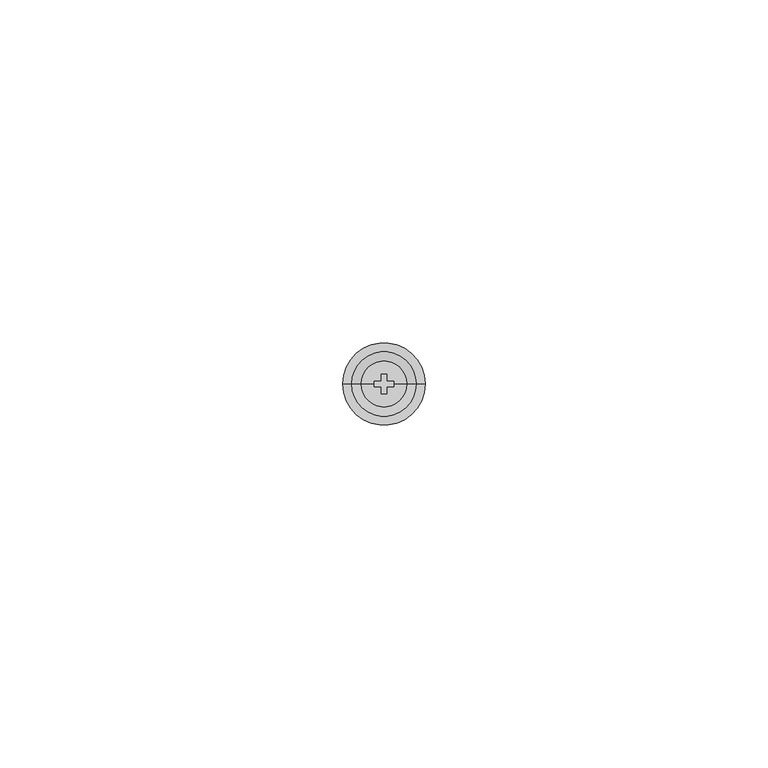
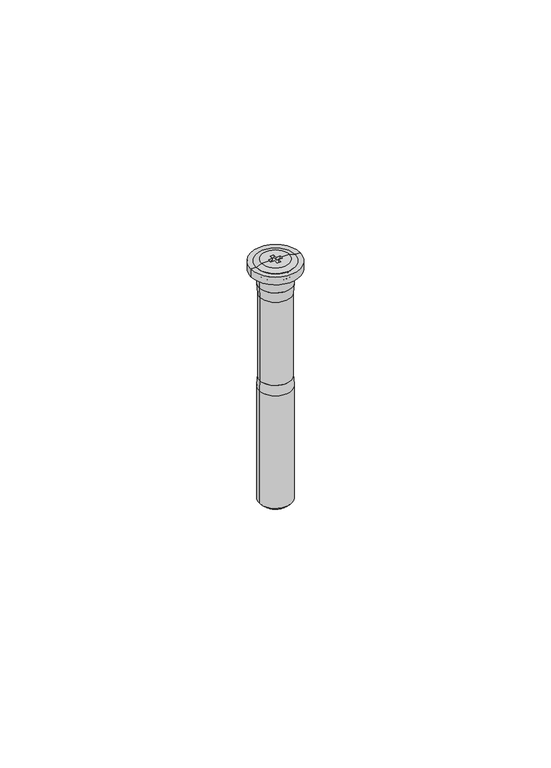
"""IFC4 building model written with IfcOpenShell, lengths in millimetres: proxy geometry, ALT_Дюбель-гвоздь : 8х60."""

from ifc_helpers import new_model, si_unit, point, frame, origin, place, context, project, spatial, polyline, circle_curve, ellipse_curve, trimmed, source, transform, mapped, element, save
from ifc_brep_helpers import plane_surface, cylinder_surface, revolved_surface, advanced_brep


def generic_models_632e174b(model_context):
    return source(origin(), model_context, "Body", "AdvancedBrep", [
        advanced_brep(
        [(0.0, 0.0, -62.0297502), (-3.0, 0.0, -57.8297502), (3.0, 0.0, -57.8297502), (-3.0, 0.0, -0.1007373), (3.0, 0.0, -0.1007373), (3.3365279, 0.0, 2.4902715), (-3.3365279, 0.0, 2.4902715), (-1.5082956, 0.0, 2.4902715), (-1.5082956, 0.5, 2.4902715), (-0.5, 0.5, 2.4902715), (-0.5, 1.5082956, 2.4902715), (0.5, 1.5082956, 2.4902715), (0.5, 0.5, 2.4902715), (1.5082956, 0.5, 2.4902715), (1.5082956, 0.0, 2.4902715), (1.5082956, -0.5, 2.4902715), (0.5, -0.5, 2.4902715), (0.5, -1.5082956, 2.4902715), (-0.5, -1.5082956, 2.4902715), (-0.5, -0.5, 2.4902715), (-1.5082956, -0.5, 2.4902715), (4.7, 0.0, 2.0), (-4.7, 0.0, 2.0), (0.5, 1.5082956, 1.6902715), (-0.5, 1.5082956, 1.6902715), (-0.5, 0.5, 1.6902715), (-1.5082956, 0.5, 1.6902715), (-1.5082956, -0.5, 1.6902715), (-0.5, -0.5, 1.6902715), (-0.5, -1.5082956, 1.6902715), (0.5, -1.5082956, 1.6902715), (0.5, -0.5, 1.6902715), (1.5082956, -0.5, 1.6902715), (1.5082956, 0.5, 1.6902715), (0.5, 0.5, 1.6902715)],
        [
            (0, 1),
            (1, 2, circle_curve(frame((0.0, 0.0, -57.8297502), z_axis=(0.0, 0.0, -1.0), x_axis=(-1.0, 0.0, 0.0)), 3.0)),
            (2, 0),
            (2, 1, circle_curve(frame((0.0, 0.0, -57.8297502), z_axis=(0.0, 0.0, -1.0), x_axis=(-1.0, 0.0, 0.0)), 3.0)),
            (1, 3),
            (3, 4, circle_curve(frame((0.0, 0.0, -0.1007373), z_axis=(0.0, 0.0, -1.0), x_axis=(-1.0, 0.0, 0.0)), 3.0)),
            (4, 2),
            (4, 3, circle_curve(frame((0.0, 0.0, -0.1007373), z_axis=(0.0, 0.0, -1.0), x_axis=(-1.0, 0.0, 0.0)), 3.0)),
            (5, 6, circle_curve(frame((0.0, 0.0, 2.4902715), z_axis=(0.0, 0.0, 1.0), x_axis=(-1.0, 0.0, 0.0)), 3.3365279)),
            (6, 7),
            (7, 8),
            (8, 9),
            (9, 10),
            (10, 11),
            (11, 12),
            (12, 13),
            (13, 14),
            (14, 5),
            (6, 5, circle_curve(frame((0.0, 0.0, 2.4902715), z_axis=(0.0, 0.0, 1.0), x_axis=(-1.0, 0.0, 0.0)), 3.3365279)),
            (14, 15),
            (15, 16),
            (16, 17),
            (17, 18),
            (18, 19),
            (19, 20),
            (20, 7),
            (5, 21),
            (21, 22, circle_curve(frame((0.0, 0.0, 2.0), z_axis=(0.0, 0.0, 1.0), x_axis=(-1.0, 0.0, 0.0)), 4.7)),
            (22, 6),
            (22, 21, circle_curve(frame((0.0, 0.0, 2.0), z_axis=(0.0, 0.0, 1.0), x_axis=(-1.0, 0.0, 0.0)), 4.7)),
            (3, 22),
            (21, 4),
            (23, 24),
            (24, 25),
            (25, 26),
            (26, 27),
            (27, 28),
            (28, 29),
            (29, 30),
            (30, 31),
            (31, 32),
            (32, 33),
            (33, 34),
            (34, 23),
            (23, 11),
            (10, 24),
            (9, 25),
            (8, 26),
            (20, 27),
            (19, 28),
            (18, 29),
            (17, 30),
            (16, 31),
            (15, 32),
            (13, 33),
            (12, 34),
        ],
        [
            revolved_surface(polyline([(-3.0, 0.0, -57.8297502), (0.0, 0.0, -62.0297502)]), (0.0, 0.0, -63.9276901), (0.0, 0.0, -1.0)),
            cylinder_surface(frame((0.0, 0.0, -63.9276901), z_axis=(0.0, 0.0, -1.0), x_axis=(-1.0, 0.0, 0.0)), 3.0),
            plane_surface(frame((0.0, 0.0, 2.4902715), z_axis=(0.0, 0.0, 1.0), x_axis=(-1.0, 0.0, 0.0))),
            revolved_surface(polyline([(-3.3365279, 0.0, 2.4902715), (-4.7, 0.0, 2.0)]), (0.0, 0.0, -63.9276901), (0.0, 0.0, -1.0)),
            revolved_surface(polyline([(-4.7, 0.0, 2.0), (-3.0, 0.0, -0.1007373)]), (0.0, 0.0, -63.9276901), (0.0, 0.0, -1.0)),
            plane_surface(frame((-0.5, 1.5082956, 1.6902715), z_axis=(0.0, 0.0, 1.0), x_axis=(1.0, 0.0, 0.0))),
            plane_surface(frame((0.5, 1.5082956, 2.4902715), z_axis=(0.0, -1.0, 0.0), x_axis=(0.0, 0.0, -1.0))),
            plane_surface(frame((-0.5, 1.5082956, 2.4902715), z_axis=(1.0, 0.0, 0.0), x_axis=(0.0, 0.0, -1.0))),
            plane_surface(frame((-0.5, 0.5, 2.4902715), z_axis=(0.0, -1.0, 0.0), x_axis=(0.0, 0.0, -1.0))),
            plane_surface(frame((-1.5082956, 0.5, 2.4902715), z_axis=(1.0, 0.0, 0.0), x_axis=(0.0, 0.0, -1.0))),
            plane_surface(frame((-1.5082956, -0.5, 2.4902715), z_axis=(0.0, 1.0, 0.0), x_axis=(0.0, 0.0, -1.0))),
            plane_surface(frame((-0.5, -0.5, 2.4902715), z_axis=(1.0, 0.0, 0.0), x_axis=(0.0, 0.0, -1.0))),
            plane_surface(frame((-0.5, -1.5082956, 2.4902715), z_axis=(0.0, 1.0, 0.0), x_axis=(0.0, 0.0, -1.0))),
            plane_surface(frame((0.5, -1.5082956, 2.4902715), z_axis=(-1.0, 0.0, 0.0), x_axis=(0.0, 0.0, -1.0))),
            plane_surface(frame((0.5, -0.5, 2.4902715), z_axis=(0.0, 1.0, 0.0), x_axis=(0.0, 0.0, -1.0))),
            plane_surface(frame((1.5082956, -0.5, 2.4902715), z_axis=(-1.0, 0.0, 0.0), x_axis=(0.0, 0.0, -1.0))),
            plane_surface(frame((1.5082956, 0.5, 2.4902715), z_axis=(0.0, -1.0, 0.0), x_axis=(0.0, 0.0, -1.0))),
            plane_surface(frame((0.5, 0.5, 2.4902715), z_axis=(-1.0, 0.0, 0.0), x_axis=(0.0, 0.0, -1.0))),
        ],
        [
            (0, [[1, 2, 3]]),
            (0, [[-1, -3, 4]]),
            (1, [[-2, 5, 6, 7]]),
            (1, [[-4, -7, 8, -5]]),
            (2, [[9, 10, 11, 12, 13, 14, 15, 16, 17, 18]]),
            (2, [[19, -18, 20, 21, 22, 23, 24, 25, 26, -10]]),
            (3, [[-9, 27, 28, 29]]),
            (3, [[-19, -29, 30, -27]]),
            (4, [[-6, 31, -28, 32]]),
            (4, [[-8, -32, -30, -31]]),
            (5, [[33, 34, 35, 36, 37, 38, 39, 40, 41, 42, 43, 44]]),
            (6, [[-33, 45, -14, 46]]),
            (7, [[-34, -46, -13, 47]]),
            (8, [[-35, -47, -12, 48]]),
            (9, [[-36, -48, -11, -26, 49]]),
            (10, [[-37, -49, -25, 50]]),
            (11, [[-38, -50, -24, 51]]),
            (12, [[-39, -51, -23, 52]]),
            (13, [[-40, -52, -22, 53]]),
            (14, [[-41, -53, -21, 54]]),
            (15, [[-42, -54, -20, -17, 55]]),
            (16, [[-43, -55, -16, 56]]),
            (17, [[-44, -56, -15, -45]]),
        ],
    ),
        advanced_brep(
        [(4.7859152, 0.0, 0.0), (-4.7859152, 0.0, 0.0), (-6.0, 0.0, 0.0), (6.0, 0.0, 0.0), (3.95, 0.0, -0.8359152), (-3.95, 0.0, -0.8359152), (3.95, 0.0, -3.5359152), (-3.95, 0.0, -3.5359152), (3.8, 0.0, -6.0359152), (-3.8, 0.0, -6.0359152), (3.8, 0.0, -27.5), (-3.8, 0.0, -27.5), (4.0, 0.0, -30.0), (-4.0, 0.0, -30.0), (4.0, 0.0, -59.05), (-4.0, 0.0, -59.05), (3.0204425, 0.0, -60.0), (-3.0204425, 0.0, -60.0), (2.1648679, 0.0, -60.0), (-2.1648679, 0.0, -60.0), (3.0, 0.0, -0.019564), (-3.0, 0.0, -0.019564), (-3.0, 0.0, -57.8898418), (3.0, 0.0, -57.8898418), (6.0, 0.0, 2.0), (-6.0, 0.0, 2.0), (-4.7, 0.0, 2.0), (4.7, 0.0, 2.0), (2.1648679, 0.0, -59.05), (-2.1648679, 0.0, -59.05)],
        [
            (0, 1, circle_curve(frame((0.0, 0.0, 0.0), z_axis=(0.0, 0.0, 1.0), x_axis=(-1.0, 0.0, 0.0)), 4.7859152)),
            (1, 2),
            (2, 3, circle_curve(frame((0.0, 0.0, 0.0), z_axis=(0.0, 0.0, -1.0), x_axis=(-1.0, 0.0, 0.0)), 6.0)),
            (3, 0),
            (1, 0, circle_curve(frame((0.0, 0.0, 0.0), z_axis=(0.0, 0.0, 1.0), x_axis=(-1.0, 0.0, 0.0)), 4.7859152)),
            (3, 2, circle_curve(frame((0.0, 0.0, 0.0), z_axis=(0.0, 0.0, -1.0), x_axis=(-1.0, 0.0, 0.0)), 6.0)),
            (4, 5, circle_curve(frame((0.0, 0.0, -0.8359152), z_axis=(0.0, 0.0, 1.0), x_axis=(-1.0, 0.0, 0.0)), 3.95)),
            (5, 1, circle_curve(frame((-4.7859152, 0.0, -0.8359152), z_axis=(0.0, -1.0, 0.0), x_axis=(1.0, 0.0, 0.0)), 0.8359152)),
            (0, 4, circle_curve(frame((4.7859152, 0.0, -0.8359152), z_axis=(0.0, -1.0, 0.0), x_axis=(-1.0, 0.0, 0.0)), 0.8359152)),
            (5, 4, circle_curve(frame((0.0, 0.0, -0.8359152), z_axis=(0.0, 0.0, 1.0), x_axis=(-1.0, 0.0, 0.0)), 3.95)),
            (6, 7, circle_curve(frame((0.0, 0.0, -3.5359152), z_axis=(0.0, 0.0, 1.0), x_axis=(-1.0, 0.0, 0.0)), 3.95)),
            (7, 5),
            (4, 6),
            (7, 6, circle_curve(frame((0.0, 0.0, -3.5359152), z_axis=(0.0, 0.0, 1.0), x_axis=(-1.0, 0.0, 0.0)), 3.95)),
            (8, 9, circle_curve(frame((0.0, 0.0, -6.0359152), z_axis=(0.0, 0.0, 1.0), x_axis=(-1.0, 0.0, 0.0)), 3.8)),
            (9, 7),
            (6, 8),
            (9, 8, circle_curve(frame((0.0, 0.0, -6.0359152), z_axis=(0.0, 0.0, 1.0), x_axis=(-1.0, 0.0, 0.0)), 3.8)),
            (10, 11, circle_curve(frame((0.0, 0.0, -27.5), z_axis=(0.0, 0.0, 1.0), x_axis=(-1.0, 0.0, 0.0)), 3.8)),
            (11, 9),
            (8, 10),
            (11, 10, circle_curve(frame((0.0, 0.0, -27.5), z_axis=(0.0, 0.0, 1.0), x_axis=(-1.0, 0.0, 0.0)), 3.8)),
            (12, 13, circle_curve(frame((0.0, 0.0, -30.0), z_axis=(0.0, 0.0, 1.0), x_axis=(-1.0, 0.0, 0.0)), 4.0)),
            (13, 11),
            (10, 12),
            (13, 12, circle_curve(frame((0.0, 0.0, -30.0), z_axis=(0.0, 0.0, 1.0), x_axis=(-1.0, 0.0, 0.0)), 4.0)),
            (14, 15, circle_curve(frame((0.0, 0.0, -59.05), z_axis=(0.0, 0.0, 1.0), x_axis=(-1.0, 0.0, 0.0)), 4.0)),
            (15, 13),
            (12, 14),
            (15, 14, circle_curve(frame((0.0, 0.0, -59.05), z_axis=(0.0, 0.0, 1.0), x_axis=(-1.0, 0.0, 0.0)), 4.0)),
            (16, 17, circle_curve(frame((0.0, 0.0, -60.0), z_axis=(0.0, 0.0, 1.0), x_axis=(-1.0, 0.0, 0.0)), 3.0204425)),
            (17, 15),
            (14, 16),
            (17, 16, circle_curve(frame((0.0, 0.0, -60.0), z_axis=(0.0, 0.0, 1.0), x_axis=(-1.0, 0.0, 0.0)), 3.0204425)),
            (18, 19, circle_curve(frame((0.0, 0.0, -60.0), z_axis=(0.0, 0.0, 1.0), x_axis=(-1.0, 0.0, 0.0)), 2.1648679)),
            (19, 17),
            (16, 18),
            (19, 18, circle_curve(frame((0.0, 0.0, -60.0), z_axis=(0.0, 0.0, 1.0), x_axis=(-1.0, 0.0, 0.0)), 2.1648679)),
            (20, 21, circle_curve(frame((0.0, 0.0, -0.019564), z_axis=(0.0, 0.0, 1.0), x_axis=(-1.0, 0.0, 0.0)), 3.0)),
            (21, 22),
            (22, 23, circle_curve(frame((0.0, 0.0, -57.8898418), z_axis=(0.0, 0.0, -1.0), x_axis=(-1.0, 0.0, 0.0)), 3.0)),
            (23, 20),
            (21, 20, circle_curve(frame((0.0, 0.0, -0.019564), z_axis=(0.0, 0.0, 1.0), x_axis=(-1.0, 0.0, 0.0)), 3.0)),
            (23, 22, circle_curve(frame((0.0, 0.0, -57.8898418), z_axis=(0.0, 0.0, -1.0), x_axis=(-1.0, 0.0, 0.0)), 3.0)),
            (24, 25, circle_curve(frame((0.0, 0.0, 2.0), z_axis=(0.0, 0.0, 1.0), x_axis=(-1.0, 0.0, 0.0)), 6.0)),
            (25, 26),
            (26, 27, circle_curve(frame((0.0, 0.0, 2.0), z_axis=(0.0, 0.0, -1.0), x_axis=(-1.0, 0.0, 0.0)), 4.7)),
            (27, 24),
            (25, 24, circle_curve(frame((0.0, 0.0, 2.0), z_axis=(0.0, 0.0, 1.0), x_axis=(-1.0, 0.0, 0.0)), 6.0)),
            (27, 26, circle_curve(frame((0.0, 0.0, 2.0), z_axis=(0.0, 0.0, -1.0), x_axis=(-1.0, 0.0, 0.0)), 4.7)),
            (2, 25),
            (24, 3),
            (26, 21),
            (20, 27),
            (28, 29, circle_curve(frame((0.0, 0.0, -59.05), z_axis=(0.0, 0.0, 1.0), x_axis=(-1.0, 0.0, 0.0)), 2.1648679)),
            (29, 19),
            (18, 28),
            (29, 28, circle_curve(frame((0.0, 0.0, -59.05), z_axis=(0.0, 0.0, 1.0), x_axis=(-1.0, 0.0, 0.0)), 2.1648679)),
            (22, 29),
            (28, 23),
        ],
        [
            plane_surface(frame((0.0, 0.0, 0.0), z_axis=(0.0, 0.0, -1.0), x_axis=(-1.0, 0.0, 0.0))),
            revolved_surface(trimmed(ellipse_curve(frame((-4.7859152, 0.0, -0.8359152), z_axis=(0.0, 1.0, 0.0), x_axis=(1.0, 0.0, 0.0)), 0.8359152, 0.8359152), [point((-4.7859152, 0.0, 0.0))], [point((-3.95, 0.0, -0.8359152))], True, "CARTESIAN"), (0.0, 0.0, 7.7043609), (0.0, 0.0, -1.0)),
            cylinder_surface(frame((0.0, 0.0, 7.7043609), z_axis=(0.0, 0.0, -1.0), x_axis=(-1.0, 0.0, 0.0)), 3.95),
            revolved_surface(polyline([(-3.95, 0.0, -3.5359152), (-3.8, 0.0, -6.0359152)]), (0.0, 0.0, 7.7043609), (0.0, 0.0, -1.0)),
            cylinder_surface(frame((0.0, 0.0, 7.7043609), z_axis=(0.0, 0.0, -1.0), x_axis=(-1.0, 0.0, 0.0)), 3.8),
            revolved_surface(polyline([(-3.8, 0.0, -27.5), (-4.0, 0.0, -30.0)]), (0.0, 0.0, 7.7043609), (0.0, 0.0, -1.0)),
            cylinder_surface(frame((0.0, 0.0, 7.7043609), z_axis=(0.0, 0.0, -1.0), x_axis=(-1.0, 0.0, 0.0)), 4.0),
            revolved_surface(polyline([(-4.0, 0.0, -59.05), (-3.0204425, 0.0, -60.0)]), (0.0, 0.0, 7.7043609), (0.0, 0.0, -1.0)),
            plane_surface(frame((0.0, 0.0, -60.0), z_axis=(0.0, 0.0, -1.0), x_axis=(-1.0, 0.0, 0.0))),
            revolved_surface(polyline([(-3.0, 0.0, -57.8898418), (-3.0, 0.0, -0.019563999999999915)]), (0.0, 0.0, 7.7043609), (0.0, 0.0, -1.0)),
            plane_surface(frame((0.0, 0.0, 2.0), z_axis=(0.0, 0.0, 1.0), x_axis=(-1.0, 0.0, 0.0))),
            cylinder_surface(frame((0.0, 0.0, 7.7043609), z_axis=(0.0, 0.0, -1.0), x_axis=(-1.0, 0.0, 0.0)), 6.0),
            revolved_surface(polyline([(-3.0, 0.0, -0.019564), (-4.7, 0.0, 2.0)]), (0.0, 0.0, 7.7043609), (0.0, 0.0, -1.0)),
            revolved_surface(polyline([(-2.1648679, 0.0, -60.0), (-2.1648679, 0.0, -59.05)]), (0.0, 0.0, 7.7043609), (0.0, 0.0, -1.0)),
            revolved_surface(polyline([(-2.1648679, 0.0, -59.05), (-3.0, 0.0, -57.8898418)]), (0.0, 0.0, 7.7043609), (0.0, 0.0, -1.0)),
        ],
        [
            (0, [[1, 2, 3, 4]]),
            (0, [[5, -4, 6, -2]]),
            (1, [[7, 8, -1, 9]]),
            (1, [[10, -9, -5, -8]]),
            (2, [[11, 12, -7, 13]]),
            (2, [[14, -13, -10, -12]]),
            (3, [[15, 16, -11, 17]]),
            (3, [[18, -17, -14, -16]]),
            (4, [[19, 20, -15, 21]]),
            (4, [[22, -21, -18, -20]]),
            (5, [[23, 24, -19, 25]]),
            (5, [[26, -25, -22, -24]]),
            (6, [[27, 28, -23, 29]]),
            (6, [[30, -29, -26, -28]]),
            (7, [[31, 32, -27, 33]]),
            (7, [[34, -33, -30, -32]]),
            (8, [[35, 36, -31, 37]]),
            (8, [[38, -37, -34, -36]]),
            (9, [[39, 40, 41, 42]]),
            (9, [[43, -42, 44, -40]]),
            (10, [[45, 46, 47, 48]]),
            (10, [[49, -48, 50, -46]]),
            (11, [[-3, 51, -45, 52]]),
            (11, [[-6, -52, -49, -51]]),
            (12, [[-47, 53, -39, 54]]),
            (12, [[-50, -54, -43, -53]]),
            (13, [[55, 56, -35, 57]]),
            (13, [[58, -57, -38, -56]]),
            (14, [[-41, 59, -55, 60]]),
            (14, [[-44, -60, -58, -59]]),
        ],
    ),
    ])


if __name__ == "__main__":
    model = new_model("IFC4")
    model_context = context("Model", 3, world=origin())
    ifc_project = project(units=[si_unit("LENGTHUNIT", "METRE", prefix="MILLI")], contexts=[model_context])
    site = spatial("IfcSite", under=ifc_project)
    building = spatial("IfcBuilding", under=site)
    placement = place(None, origin())
    generic_models_shape = generic_models_632e174b(model_context)
    element("IfcBuildingElementProxy", 1, Name="ALT_Дюбель-гвоздь : 8х60", ObjectType="ALT_Дюбель-гвоздь : 8х60", at=placement, inside=building, context=model_context, shape_type="MappedRepresentation", body=[
        mapped(generic_models_shape, transform((0.0, 0.0, 0.0), x_axis=(1.0, 0.0, 0.0), y_axis=(0.0, 1.0, 0.0), z_axis=(0.0, 0.0, 1.0))),
    ])
    save(model, "model.ifc")
